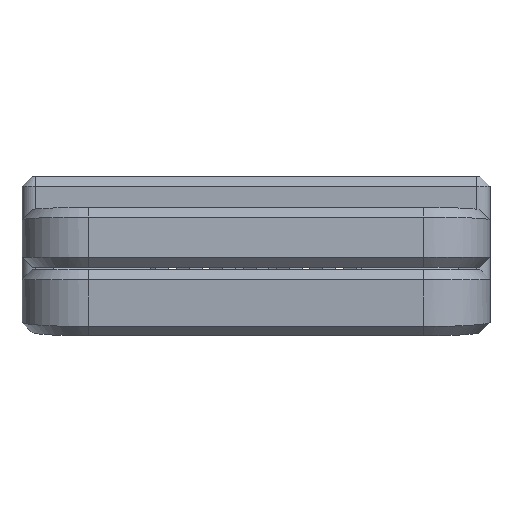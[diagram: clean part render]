
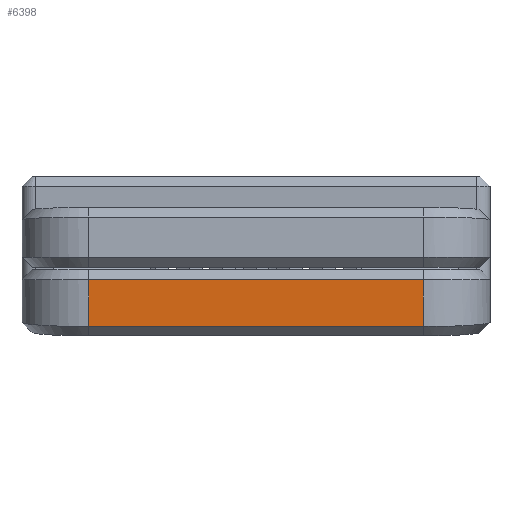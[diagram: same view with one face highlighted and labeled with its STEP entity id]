
A CAD part, front view. The second image highlights one B-rep face of the part: STEP entity #6398.
In plain terms, the highlighted planar face has unit normal (0, -1, -0.032).
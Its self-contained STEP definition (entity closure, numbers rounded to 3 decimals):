
#282=PLANE('',#6809);
#565=FACE_OUTER_BOUND('',#951,.T.);
#951=EDGE_LOOP('',(#4628,#4629,#4630,#4631));
#1460=LINE('',#9260,#2208);
#1469=LINE('',#9351,#2217);
#1470=LINE('',#9364,#2218);
#1471=LINE('',#9365,#2219);
#2208=VECTOR('',#7325,10.);
#2217=VECTOR('',#7342,10.);
#2218=VECTOR('',#7345,10.);
#2219=VECTOR('',#7346,10.);
#2989=VERTEX_POINT('',#9248);
#2991=VERTEX_POINT('',#9258);
#3000=VERTEX_POINT('',#9350);
#3002=VERTEX_POINT('',#9363);
#3609=EDGE_CURVE('',#2991,#2989,#1460,.T.);
#3623=EDGE_CURVE('',#2989,#3000,#1469,.T.);
#3626=EDGE_CURVE('',#3002,#2991,#1470,.T.);
#3627=EDGE_CURVE('',#3000,#3002,#1471,.T.);
#4628=ORIENTED_EDGE('',*,*,#3609,.F.);
#4629=ORIENTED_EDGE('',*,*,#3626,.F.);
#4630=ORIENTED_EDGE('',*,*,#3627,.F.);
#4631=ORIENTED_EDGE('',*,*,#3623,.F.);
#6398=ADVANCED_FACE('',(#565),#282,.T.);
#6809=AXIS2_PLACEMENT_3D('',#9362,#7343,#7344);
#7325=DIRECTION('',(1.,0.,0.));
#7342=DIRECTION('',(0.,0.032,-1.));
#7343=DIRECTION('center_axis',(0.,-1.,-0.032));
#7344=DIRECTION('ref_axis',(0.,0.032,-1.));
#7345=DIRECTION('',(0.,-0.032,1.));
#7346=DIRECTION('',(-1.,0.,0.));
#9248=CARTESIAN_POINT('',(12.5,-23.726,-0.75));
#9258=CARTESIAN_POINT('',(-12.5,-23.726,-0.75));
#9260=CARTESIAN_POINT('',(0.,-23.726,-0.75));
#9350=CARTESIAN_POINT('',(12.5,-23.616,-4.248));
#9351=CARTESIAN_POINT('',(12.5,-23.699,-1.623));
#9362=CARTESIAN_POINT('Origin',(0.,-23.75,0.));
#9363=CARTESIAN_POINT('',(-12.5,-23.616,-4.248));
#9364=CARTESIAN_POINT('',(-12.5,-23.825,2.372));
#9365=CARTESIAN_POINT('',(0.,-23.616,-4.248));
